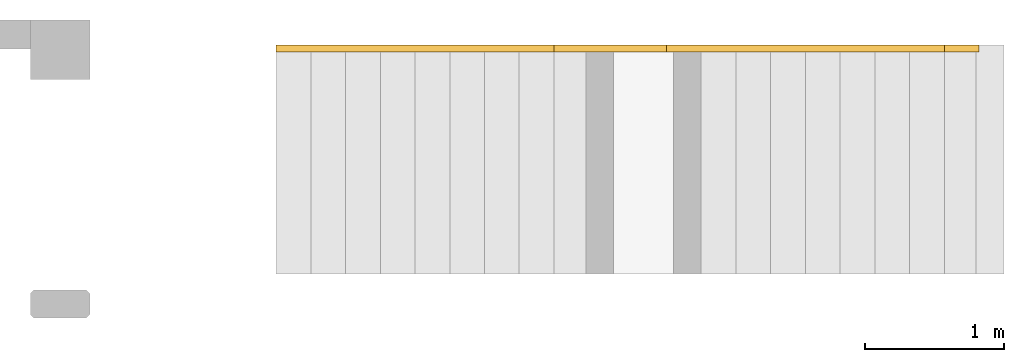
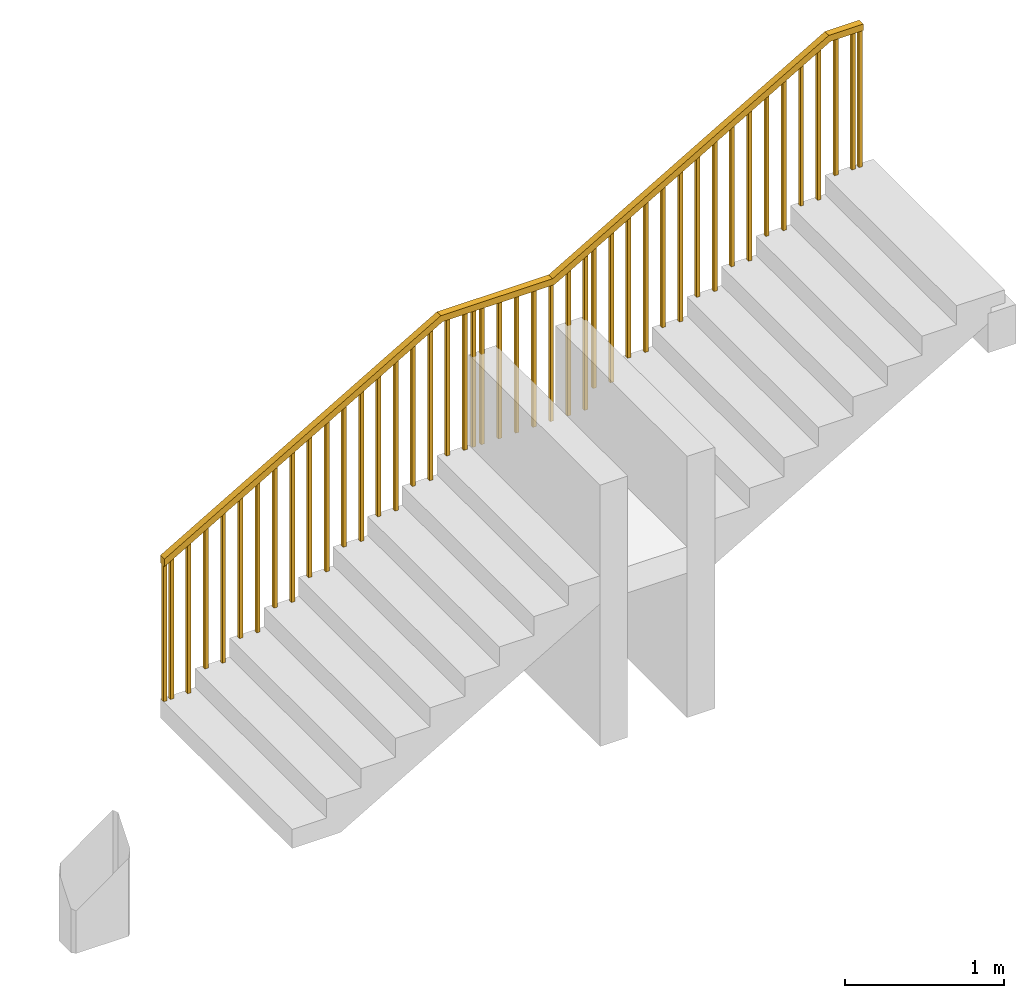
# One storey, part 3 of 3: 1 railing, 1 element without a shape of its own.
"""IFC2X3 building model written with IfcOpenShell, lengths in millimetres."""

import ifcopenshell
import ifcopenshell.guid

model = None  # the IFC model being written
_history = None  # IfcOwnerHistory: only IFC2X3 demands one
_inside = {}  # id of a spatial element -> (the spatial element, [elements in it])
_under = {}  # id of a project, library or spatial element -> (it, [spatial elements below it])
_declared = {}  # id of a project -> (the project, [libraries it declares])
_typed = {}  # id of a type object -> (the type object, [elements of that type])
_made_of = {}  # id of a material, layer set ... -> (it, [elements and type objects made of it])


def new_model(schema):
    """Start an empty IFC model of exactly this schema.

    Asked for "IFC4X3", IfcOpenShell would pick the latest addendum, in which some entities
    have other attributes; the version numbers below select the first issue.
    IFC2X3 requires an IfcOwnerHistory on every rooted entity: one is made here for all.
    """
    global model, _history
    if schema == "IFC4X3":
        model = ifcopenshell.file(schema_version=(4, 3, 0, 0))
    else:
        model = ifcopenshell.file(schema=schema)
    _inside.clear()
    _under.clear()
    _declared.clear()
    _typed.clear()
    _made_of.clear()
    _history = None
    if model.schema == "IFC2X3":
        org = make("IfcOrganization", Name="unknown")
        user = make(
            "IfcPersonAndOrganization",
            ThePerson=make("IfcPerson", FamilyName="unknown"),
            TheOrganization=org,
        )
        app = make(
            "IfcApplication",
            ApplicationDeveloper=org,
            Version="unknown",
            ApplicationFullName="unknown",
            ApplicationIdentifier="unknown",
        )
        _history = make(
            "IfcOwnerHistory",
            OwningUser=user,
            OwningApplication=app,
            ChangeAction="ADDED",
            CreationDate=0,
        )
    return model


def make(cls, **values):
    """One entity of the class cls with the attributes given. An attribute that is None is left unset."""
    return model.create_entity(
        cls, **{name: value for name, value in values.items() if value is not None}
    )


def entity(cls, *values):
    """Any entity or typed value of the class cls, its attributes in the order of the schema. None: left unset."""
    e = model.create_entity(cls)
    for i, value in enumerate(values):
        if value is not None:
            e[i] = value
    return e


def rooted(cls, **values):
    """An entity with a GlobalId (a new one), such as an element, a storey or a relation."""
    return make(cls, GlobalId=ifcopenshell.guid.new(), OwnerHistory=_history, **values)


def si_unit(unit_type, name, prefix=None):
    """IfcSIUnit, for example si_unit("LENGTHUNIT", "METRE", prefix="MILLI")."""
    return make("IfcSIUnit", UnitType=unit_type, Prefix=prefix, Name=name)


def converted_unit(unit_type, name, factor, base, dimensions=None, offset=None):
    """IfcConversionBasedUnit, such as the inch: factor (a typed value) times the base unit."""
    return make(
        "IfcConversionBasedUnit"
        if offset is None
        else "IfcConversionBasedUnitWithOffset",
        ConversionOffset=offset,
        Dimensions=None
        if dimensions is None
        else entity("IfcDimensionalExponents", *dimensions),
        UnitType=unit_type,
        Name=name,
        ConversionFactor=make(
            "IfcMeasureWithUnit", ValueComponent=factor, UnitComponent=base
        ),
    )


def derived_unit(unit_type, elements):
    """IfcDerivedUnit: a product of units, each with its exponent."""
    return make(
        "IfcDerivedUnit",
        Elements=[
            make("IfcDerivedUnitElement", Unit=unit, Exponent=power)
            for unit, power in elements
        ],
        UnitType=unit_type,
    )


def assignment(units):
    """IfcUnitAssignment: the units of a project."""
    return None if units is None else make("IfcUnitAssignment", Units=units)


def point(xyz):
    """IfcCartesianPoint."""
    return None if xyz is None else make("IfcCartesianPoint", Coordinates=xyz)


def direction(xyz):
    """IfcDirection."""
    return None if xyz is None else make("IfcDirection", DirectionRatios=xyz)


def frame(location, z_axis=None, x_axis=None):
    """IfcAxis2Placement3D, a coordinate frame: its origin and axes. An axis left out is left unset."""
    return make(
        "IfcAxis2Placement3D",
        Location=point(location),
        Axis=direction(z_axis),
        RefDirection=direction(x_axis),
    )


def origin():
    """The frame at (0, 0, 0) with its axes left unset."""
    return frame((0.0, 0.0, 0.0))


def place(relative_to, where):
    """IfcLocalPlacement: puts the frame where relative to a parent placement (None: the world)."""
    return make(
        "IfcLocalPlacement", PlacementRelTo=relative_to, RelativePlacement=where
    )


def context(
    kind, dimensions, precision=None, world=None, true_north=None, identifier=None
):
    """IfcGeometricRepresentationContext, for example the 3D "Model" context."""
    return make(
        "IfcGeometricRepresentationContext",
        ContextIdentifier=identifier,
        ContextType=kind,
        CoordinateSpaceDimension=dimensions,
        Precision=precision,
        WorldCoordinateSystem=world,
        TrueNorth=true_north,
    )


def subcontext(parent, identifier, kind, view, scale=None):
    """IfcGeometricRepresentationSubContext, for example "Body" below "Model"."""
    return make(
        "IfcGeometricRepresentationSubContext",
        ContextIdentifier=identifier,
        ContextType=kind,
        ParentContext=parent,
        TargetScale=scale,
        TargetView=view,
    )


def project(units=None, contexts=None):
    """IfcProject with its units and contexts."""
    return rooted(
        "IfcProject",
        Name="project",
        RepresentationContexts=contexts,
        UnitsInContext=assignment(units),
    )


def spatial(cls, under=None, at=None, **own):
    """A site, building, storey or space (cls), placed at a placement, below another one or the project."""
    s = rooted(cls, ObjectPlacement=at, **own)
    if under is not None:
        _under.setdefault(under.id(), (under, []))[1].append(s)
    return s


def faces_of(points, faces, orient=None, outer=None):
    """IfcFace entities. A face is a list of loops; a loop is a list of indices into points, from 0.

    orient and outer hold one flag for each loop. By default every Orientation is true, the
    first loop of a face is its IfcFaceOuterBound and the others are IfcFaceBound.
    """
    made = []
    for i, loops in enumerate(faces):
        bounds = []
        for j, loop in enumerate(loops):
            is_outer = j == 0 if outer is None else outer[i][j]
            bounds.append(
                make(
                    "IfcFaceOuterBound" if is_outer else "IfcFaceBound",
                    Bound=make("IfcPolyLoop", Polygon=[points[k] for k in loop]),
                    Orientation=True if orient is None else orient[i][j],
                )
            )
        made.append(make("IfcFace", Bounds=bounds))
    return made


def faceted_brep(points, faces, orient=None, outer=None, voids=None):
    """IfcFacetedBrep: a solid bounded by flat faces; with voids (closed shells), ...WithVoids."""
    shared = [point(p) for p in points]
    hull = make("IfcClosedShell", CfsFaces=faces_of(shared, faces, orient, outer))
    if voids is None:
        return make("IfcFacetedBrep", Outer=hull)
    return make(
        "IfcFacetedBrepWithVoids",
        Outer=hull,
        Voids=[
            make(cls, CfsFaces=faces_of(shared, fs, o, b)) for cls, fs, o, b in voids
        ],
    )


def shape(context_of_items, identifier, shape_type, items):
    """IfcShapeRepresentation: the items that make up one representation, for example the "Body"."""
    return make(
        "IfcShapeRepresentation",
        ContextOfItems=context_of_items,
        RepresentationIdentifier=identifier,
        RepresentationType=shape_type,
        Items=items,
    )


def made_of(thing, what):
    """Note that an element or type object is made of a material, layer set ...; save() writes the relation."""
    if what is not None:
        _made_of.setdefault(what.id(), (what, []))[1].append(thing)
    return thing


def element(
    cls,
    number,
    at=None,
    inside=None,
    cuts=None,
    type_object=None,
    material=None,
    context=None,
    identifier="Body",
    shape_type=None,
    held_by="IfcProductDefinitionShape",
    body=None,
    shapes=None,
    **own,
):
    """One element of the class cls, such as IfcWall. Its Tag is "e" and its number.

    at: its placement. inside: the storey or other place that contains it. cuts: it is an
    opening in that element (IfcRelVoidsElement). A single representation is given by context,
    identifier, shape_type and body (its items); several are given by shapes. held_by: the class
    of the entity that holds the representations. save() writes the other relations.
    """
    e = rooted(cls, Tag="e%d" % number, ObjectPlacement=at, **own)
    if body is not None:
        shapes = [shape(context, identifier, shape_type, body)]
    if shapes is not None:
        e.Representation = make(held_by, Representations=shapes)
    if inside is not None:
        _inside.setdefault(inside.id(), (inside, []))[1].append(e)
    if cuts is not None:
        rooted(
            "IfcRelVoidsElement", RelatingBuildingElement=cuts, RelatedOpeningElement=e
        )
    if type_object is not None:
        _typed.setdefault(type_object.id(), (type_object, []))[1].append(e)
    return made_of(e, material)


def aggregate(whole, parts):
    """IfcRelAggregates: a whole, such as a stair, and the parts it consists of."""
    return rooted("IfcRelAggregates", RelatingObject=whole, RelatedObjects=parts)


def save(model, path):
    """Write the relations noted so far, then the file.

    IfcRelAggregates (storeys below a building ...), IfcRelContainedInSpatialStructure (elements
    in a storey), IfcRelDefinesByType, IfcRelAssociatesMaterial and IfcRelDeclares: one each for
    every whole, place, type object, material and project.
    """
    for whole, parts in _under.values():
        aggregate(whole, parts)
    for where, things in _inside.values():
        rooted(
            "IfcRelContainedInSpatialStructure",
            RelatedElements=things,
            RelatingStructure=where,
        )
    for kind, things in _typed.values():
        rooted("IfcRelDefinesByType", RelatedObjects=things, RelatingType=kind)
    for what, things in _made_of.values():
        rooted("IfcRelAssociatesMaterial", RelatedObjects=things, RelatingMaterial=what)
    for by, libraries in _declared.values():
        rooted("IfcRelDeclares", RelatingContext=by, RelatedDefinitions=libraries)
    model.write(path)


model = new_model("IFC2X3")

# Units and contexts
model_context = context("Model", 3, precision=0.01, world=origin(), true_north=direction((6.12303176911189e-17, 1.0)))
body_context = subcontext(model_context, "Body", "Model", "MODEL_VIEW")
ifc_project = project(units=[si_unit("LENGTHUNIT", "METRE", prefix="MILLI"), si_unit("AREAUNIT", "SQUARE_METRE"), si_unit("VOLUMEUNIT", "CUBIC_METRE"), converted_unit("PLANEANGLEUNIT", "DEGREE", entity("IfcRatioMeasure", 0.0174532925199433), si_unit("PLANEANGLEUNIT", "RADIAN"), dimensions=[0, 0, 0, 0, 0, 0, 0]), si_unit("MASSUNIT", "GRAM", prefix="KILO"), derived_unit("MASSDENSITYUNIT", [(si_unit("MASSUNIT", "GRAM", prefix="KILO"), 1), (si_unit("LENGTHUNIT", "METRE"), -3)]), derived_unit("MOMENTOFINERTIAUNIT", [(si_unit("LENGTHUNIT", "METRE"), 4)]), si_unit("TIMEUNIT", "SECOND"), si_unit("FREQUENCYUNIT", "HERTZ"), si_unit("THERMODYNAMICTEMPERATUREUNIT", "DEGREE_CELSIUS"), derived_unit("THERMALTRANSMITTANCEUNIT", [(si_unit("MASSUNIT", "GRAM", prefix="KILO"), 1), (si_unit("THERMODYNAMICTEMPERATUREUNIT", "KELVIN"), -1), (si_unit("TIMEUNIT", "SECOND"), -3)]), derived_unit("VOLUMETRICFLOWRATEUNIT", [(si_unit("LENGTHUNIT", "METRE"), 3), (si_unit("TIMEUNIT", "SECOND"), -1)]), si_unit("ELECTRICCURRENTUNIT", "AMPERE"), si_unit("ELECTRICVOLTAGEUNIT", "VOLT"), si_unit("POWERUNIT", "WATT"), si_unit("FORCEUNIT", "NEWTON", prefix="KILO"), si_unit("ILLUMINANCEUNIT", "LUX"), si_unit("LUMINOUSFLUXUNIT", "LUMEN"), si_unit("LUMINOUSINTENSITYUNIT", "CANDELA"), derived_unit("USERDEFINED", [(si_unit("MASSUNIT", "GRAM", prefix="KILO"), -1), (si_unit("LENGTHUNIT", "METRE"), -2), (si_unit("TIMEUNIT", "SECOND"), 3), (si_unit("LUMINOUSFLUXUNIT", "LUMEN"), 1)]), derived_unit("LINEARVELOCITYUNIT", [(si_unit("LENGTHUNIT", "METRE"), 1), (si_unit("TIMEUNIT", "SECOND"), -1)]), si_unit("PRESSUREUNIT", "PASCAL"), derived_unit("USERDEFINED", [(si_unit("LENGTHUNIT", "METRE"), -2), (si_unit("MASSUNIT", "GRAM", prefix="KILO"), 1), (si_unit("TIMEUNIT", "SECOND"), -2)]), derived_unit("LINEARFORCEUNIT", [(si_unit("MASSUNIT", "GRAM", prefix="KILO"), 1), (si_unit("LENGTHUNIT", "METRE"), 1), (si_unit("TIMEUNIT", "SECOND"), -2), (si_unit("LENGTHUNIT", "METRE"), -1)]), derived_unit("PLANARFORCEUNIT", [(si_unit("MASSUNIT", "GRAM", prefix="KILO"), 1), (si_unit("LENGTHUNIT", "METRE"), 1), (si_unit("TIMEUNIT", "SECOND"), -2), (si_unit("LENGTHUNIT", "METRE"), -2)])], contexts=[model_context])

# Site, building, storey
site_placement = place(None, frame((10627.5135316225, 21939.0796949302, 0.0)))
site = spatial("IfcSite", under=ifc_project, at=site_placement, Name="Default", CompositionType="ELEMENT")
building_placement = place(site_placement, origin())
building = spatial("IfcBuilding", under=site, at=building_placement, CompositionType="ELEMENT")
storey_placement = place(building_placement, frame((0.0, 0.0, -3500.0)))
storey = spatial("IfcBuildingStorey", under=building, at=storey_placement, Name="R-1", CompositionType="ELEMENT", Elevation=-3500.0)

# Stair, railing
stair_placement = place(storey_placement, origin())
stair = element("IfcStair", 1, at=stair_placement, inside=storey, Name="Precast Stair:Stair", ObjectType="Precast Stair:Precast_Stair", ShapeType="TWO_STRAIGHT_RUN_STAIR")
railing_placement = place(stair_placement, frame((-7242.51353162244, 18295.5203050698, 145.294117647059)))
railing = element("IfcRailing", 2, at=railing_placement, Name="Railing:1100mm", ObjectType="Railing:1100mm", PredefinedType="NOTDEFINED", context=body_context, shape_type="Brep", body=[
    faceted_brep([(4985.0, 12.500000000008, 3374.70588235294), (4985.0, 37.5000000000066, 3374.70588235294), (4985.0, 37.5000000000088, 2324.70588235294), (4985.0, 12.500000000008, 2324.70588235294), (5010.0, 37.5000000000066, 3374.70588235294), (5010.0, 37.5000000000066, 2324.70588235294), (5010.0, 12.500000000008, 3374.70588235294), (5010.0, 12.5000000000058, 2324.70588235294)], [[[0, 1, 2, 3]], [[1, 4, 5, 2]], [[4, 6, 7, 5]], [[3, 7, 6, 0]], [[0, 6, 4, 1]], [[2, 5, 7, 3]]]),
    faceted_brep([(4860.0, 12.500000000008, 3374.70588235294), (4860.0, 37.5000000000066, 3374.70588235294), (4860.0, 37.5000000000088, 2324.70588235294), (4860.0, 12.500000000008, 2324.70588235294), (4885.0, 37.5000000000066, 3374.70588235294), (4885.0, 37.5000000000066, 2324.70588235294), (4885.0, 12.500000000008, 3374.70588235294), (4885.0, 12.5000000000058, 2324.70588235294)], [[[0, 1, 2, 3]], [[1, 4, 5, 2]], [[4, 6, 7, 5]], [[3, 7, 6, 0]], [[0, 6, 4, 1]], [[2, 5, 7, 3]]]),
    faceted_brep([(4735.0, 12.500000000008, 3323.28672777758), (4735.0, 37.5000000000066, 3323.28672777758), (4735.0, 37.5000000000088, 2179.41176470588), (4735.0, 12.500000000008, 2179.41176470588), (4760.0, 37.5000000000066, 3337.81613954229), (4760.0, 37.5000000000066, 2179.41176470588), (4760.0, 12.500000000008, 3337.81613954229), (4760.0, 12.5000000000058, 2179.41176470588)], [[[0, 1, 2, 3]], [[1, 4, 5, 2]], [[4, 6, 7, 5]], [[3, 7, 6, 0]], [[0, 6, 4, 1]], [[2, 5, 7, 3]]]),
    faceted_brep([(4610.0, 12.5000000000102, 3250.63966895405), (4610.0, 37.5000000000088, 3250.63966895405), (4610.0, 37.500000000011, 2179.41176470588), (4610.0, 12.5000000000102, 2179.41176470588), (4635.0, 37.5000000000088, 3265.16908071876), (4635.0, 37.5000000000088, 2179.41176470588), (4635.0, 12.5000000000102, 3265.16908071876), (4635.0, 12.500000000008, 2179.41176470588)], [[[0, 1, 2, 3]], [[1, 4, 5, 2]], [[4, 6, 7, 5]], [[3, 7, 6, 0]], [[0, 6, 4, 1]], [[2, 5, 7, 3]]]),
    faceted_brep([(4485.0, 12.5000000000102, 3177.99261013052), (4485.0, 37.5000000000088, 3177.99261013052), (4485.0, 37.500000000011, 2034.11764705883), (4485.0, 12.5000000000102, 2034.11764705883), (4510.0, 37.5000000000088, 3192.52202189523), (4510.0, 37.5000000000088, 2034.11764705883), (4510.0, 12.5000000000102, 3192.52202189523), (4510.0, 12.500000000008, 2034.11764705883)], [[[0, 1, 2, 3]], [[1, 4, 5, 2]], [[4, 6, 7, 5]], [[3, 7, 6, 0]], [[0, 6, 4, 1]], [[2, 5, 7, 3]]]),
    faceted_brep([(4360.0, 12.5000000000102, 3105.34555130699), (4360.0, 37.5000000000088, 3105.34555130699), (4360.0, 37.500000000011, 2034.11764705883), (4360.0, 12.5000000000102, 2034.11764705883), (4385.0, 37.5000000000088, 3119.8749630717), (4385.0, 37.5000000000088, 2034.11764705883), (4385.0, 12.5000000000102, 3119.8749630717), (4385.0, 12.500000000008, 2034.11764705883)], [[[0, 1, 2, 3]], [[1, 4, 5, 2]], [[4, 6, 7, 5]], [[3, 7, 6, 0]], [[0, 6, 4, 1]], [[2, 5, 7, 3]]]),
    faceted_brep([(4235.0, 12.5000000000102, 3032.69849248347), (4235.0, 37.5000000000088, 3032.69849248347), (4235.0, 37.500000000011, 1888.82352941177), (4235.0, 12.5000000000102, 1888.82352941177), (4260.0, 37.5000000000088, 3047.22790424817), (4260.0, 37.5000000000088, 1888.82352941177), (4260.0, 12.5000000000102, 3047.22790424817), (4260.0, 12.500000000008, 1888.82352941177)], [[[0, 1, 2, 3]], [[1, 4, 5, 2]], [[4, 6, 7, 5]], [[3, 7, 6, 0]], [[0, 6, 4, 1]], [[2, 5, 7, 3]]]),
    faceted_brep([(4110.0, 12.5000000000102, 2960.05143365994), (4110.0, 37.5000000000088, 2960.05143365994), (4110.0, 37.500000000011, 1888.82352941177), (4110.0, 12.5000000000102, 1888.82352941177), (4135.0, 37.5000000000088, 2974.58084542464), (4135.0, 37.5000000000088, 1888.82352941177), (4135.0, 12.5000000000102, 2974.58084542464), (4135.0, 12.500000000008, 1888.82352941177)], [[[0, 1, 2, 3]], [[1, 4, 5, 2]], [[4, 6, 7, 5]], [[3, 7, 6, 0]], [[0, 6, 4, 1]], [[2, 5, 7, 3]]]),
    faceted_brep([(3985.0, 12.5000000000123, 2887.40437483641), (3985.0, 37.500000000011, 2887.40437483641), (3985.0, 37.5000000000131, 1743.52941176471), (3985.0, 12.5000000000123, 1743.52941176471), (4010.0, 37.500000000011, 2901.93378660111), (4010.0, 37.500000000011, 1743.52941176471), (4010.0, 12.5000000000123, 2901.93378660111), (4010.0, 12.5000000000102, 1743.52941176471)], [[[0, 1, 2, 3]], [[1, 4, 5, 2]], [[4, 6, 7, 5]], [[3, 7, 6, 0]], [[0, 6, 4, 1]], [[2, 5, 7, 3]]]),
    faceted_brep([(3860.0, 12.5000000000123, 2814.75731601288), (3860.0, 37.500000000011, 2814.75731601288), (3860.0, 37.5000000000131, 1743.52941176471), (3860.0, 12.5000000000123, 1743.52941176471), (3885.0, 37.500000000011, 2829.28672777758), (3885.0, 37.500000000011, 1743.52941176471), (3885.0, 12.5000000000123, 2829.28672777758), (3885.0, 12.5000000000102, 1743.52941176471)], [[[0, 1, 2, 3]], [[1, 4, 5, 2]], [[4, 6, 7, 5]], [[3, 7, 6, 0]], [[0, 6, 4, 1]], [[2, 5, 7, 3]]]),
    faceted_brep([(3735.0, 12.5000000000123, 2742.11025718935), (3735.0, 37.500000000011, 2742.11025718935), (3735.0, 37.5000000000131, 1598.23529411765), (3735.0, 12.5000000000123, 1598.23529411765), (3760.0, 37.500000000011, 2756.63966895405), (3760.0, 37.500000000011, 1598.23529411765), (3760.0, 12.5000000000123, 2756.63966895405), (3760.0, 12.5000000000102, 1598.23529411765)], [[[0, 1, 2, 3]], [[1, 4, 5, 2]], [[4, 6, 7, 5]], [[3, 7, 6, 0]], [[0, 6, 4, 1]], [[2, 5, 7, 3]]]),
    faceted_brep([(3610.0, 12.5000000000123, 2669.46319836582), (3610.0, 37.500000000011, 2669.46319836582), (3610.0, 37.5000000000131, 1598.23529411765), (3610.0, 12.5000000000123, 1598.23529411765), (3635.0, 37.500000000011, 2683.99261013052), (3635.0, 37.500000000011, 1598.23529411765), (3635.0, 12.5000000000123, 2683.99261013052), (3635.0, 12.5000000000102, 1598.23529411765)], [[[0, 1, 2, 3]], [[1, 4, 5, 2]], [[4, 6, 7, 5]], [[3, 7, 6, 0]], [[0, 6, 4, 1]], [[2, 5, 7, 3]]]),
    faceted_brep([(3485.0, 12.5000000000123, 2596.81613954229), (3485.0, 37.500000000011, 2596.81613954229), (3485.0, 37.5000000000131, 1452.94117647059), (3485.0, 12.5000000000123, 1452.94117647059), (3510.0, 37.500000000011, 2611.34555130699), (3510.0, 37.500000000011, 1452.94117647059), (3510.0, 12.5000000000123, 2611.34555130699), (3510.0, 12.5000000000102, 1452.94117647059)], [[[0, 1, 2, 3]], [[1, 4, 5, 2]], [[4, 6, 7, 5]], [[3, 7, 6, 0]], [[0, 6, 4, 1]], [[2, 5, 7, 3]]]),
    faceted_brep([(3360.0, 12.5000000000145, 2524.16908071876), (3360.0, 37.5000000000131, 2524.16908071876), (3360.0, 37.5000000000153, 1452.94117647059), (3360.0, 12.5000000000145, 1452.94117647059), (3385.0, 37.5000000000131, 2538.69849248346), (3385.0, 37.5000000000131, 1452.94117647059), (3385.0, 12.5000000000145, 2538.69849248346), (3385.0, 12.5000000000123, 1452.94117647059)], [[[0, 1, 2, 3]], [[1, 4, 5, 2]], [[4, 6, 7, 5]], [[3, 7, 6, 0]], [[0, 6, 4, 1]], [[2, 5, 7, 3]]]),
    faceted_brep([(3235.0, 12.5000000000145, 2451.52202189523), (3235.0, 37.5000000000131, 2451.52202189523), (3235.0, 37.5000000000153, 1307.64705882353), (3235.0, 12.5000000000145, 1307.64705882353), (3260.0, 37.5000000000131, 2466.05143365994), (3260.0, 37.5000000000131, 1307.64705882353), (3260.0, 12.5000000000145, 2466.05143365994), (3260.0, 12.5000000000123, 1307.64705882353)], [[[0, 1, 2, 3]], [[1, 4, 5, 2]], [[4, 6, 7, 5]], [[3, 7, 6, 0]], [[0, 6, 4, 1]], [[2, 5, 7, 3]]]),
    faceted_brep([(3110.0, 12.5000000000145, 2378.8749630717), (3110.0, 37.5000000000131, 2378.8749630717), (3110.0, 37.5000000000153, 1307.64705882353), (3110.0, 12.5000000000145, 1307.64705882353), (3135.0, 37.5000000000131, 2393.40437483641), (3135.0, 37.5000000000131, 1307.64705882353), (3135.0, 12.5000000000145, 2393.40437483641), (3135.0, 12.5000000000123, 1307.64705882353)], [[[0, 1, 2, 3]], [[1, 4, 5, 2]], [[4, 6, 7, 5]], [[3, 7, 6, 0]], [[0, 6, 4, 1]], [[2, 5, 7, 3]]]),
    faceted_brep([(2925.0, 12.5000000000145, 2271.35731601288), (2925.0, 37.5000000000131, 2271.35731601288), (2925.0, 37.5000000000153, 1162.35294117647), (2925.0, 12.5000000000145, 1162.35294117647), (2950.0, 37.5000000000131, 2285.88672777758), (2950.0, 37.5000000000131, 1162.35294117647), (2950.0, 12.5000000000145, 2285.88672777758), (2950.0, 12.5000000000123, 1162.35294117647)], [[[0, 1, 2, 3]], [[1, 4, 5, 2]], [[4, 6, 7, 5]], [[3, 7, 6, 0]], [[0, 6, 4, 1]], [[2, 5, 7, 3]]]),
    faceted_brep([(2800.0, 12.5000000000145, 2198.71025718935), (2800.0, 37.5000000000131, 2198.71025718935), (2800.0, 37.5000000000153, 1162.35294117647), (2800.0, 12.5000000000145, 1162.35294117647), (2825.0, 37.5000000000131, 2213.23966895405), (2825.0, 37.5000000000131, 1162.35294117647), (2825.0, 12.5000000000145, 2213.23966895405), (2825.0, 12.5000000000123, 1162.35294117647)], [[[0, 1, 2, 3]], [[1, 4, 5, 2]], [[4, 6, 7, 5]], [[3, 7, 6, 0]], [[0, 6, 4, 1]], [[2, 5, 7, 3]]]),
    faceted_brep([(2675.0, 12.5000000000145, 2212.35294117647), (2675.0, 37.5000000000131, 2212.35294117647), (2675.0, 37.5000000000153, 1162.35294117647), (2675.0, 12.5000000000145, 1162.35294117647), (2700.0, 37.5000000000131, 2212.35294117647), (2700.0, 37.5000000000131, 1162.35294117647), (2700.0, 12.5000000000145, 2212.35294117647), (2700.0, 12.5000000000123, 1162.35294117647)], [[[0, 1, 2, 3]], [[1, 4, 5, 2]], [[4, 6, 7, 5]], [[3, 7, 6, 0]], [[0, 6, 4, 1]], [[2, 5, 7, 3]]]),
    faceted_brep([(2550.0, 12.5000000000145, 2212.35294117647), (2550.0, 37.5000000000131, 2212.35294117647), (2550.0, 37.5000000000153, 1162.35294117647), (2550.0, 12.5000000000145, 1162.35294117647), (2575.0, 37.5000000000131, 2212.35294117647), (2575.0, 37.5000000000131, 1162.35294117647), (2575.0, 12.5000000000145, 2212.35294117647), (2575.0, 12.5000000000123, 1162.35294117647)], [[[0, 1, 2, 3]], [[1, 4, 5, 2]], [[4, 6, 7, 5]], [[3, 7, 6, 0]], [[0, 6, 4, 1]], [[2, 5, 7, 3]]]),
    faceted_brep([(2425.0, 12.5000000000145, 2212.35294117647), (2425.0, 37.5000000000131, 2212.35294117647), (2425.0, 37.5000000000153, 1162.35294117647), (2425.0, 12.5000000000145, 1162.35294117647), (2450.0, 37.5000000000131, 2212.35294117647), (2450.0, 37.5000000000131, 1162.35294117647), (2450.0, 12.5000000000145, 2212.35294117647), (2450.0, 12.5000000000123, 1162.35294117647)], [[[0, 1, 2, 3]], [[1, 4, 5, 2]], [[4, 6, 7, 5]], [[3, 7, 6, 0]], [[0, 6, 4, 1]], [[2, 5, 7, 3]]]),
    faceted_brep([(2300.0, 12.5000000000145, 2212.35294117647), (2300.0, 37.5000000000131, 2212.35294117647), (2300.0, 37.5000000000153, 1162.35294117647), (2300.0, 12.5000000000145, 1162.35294117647), (2325.0, 37.5000000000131, 2212.35294117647), (2325.0, 37.5000000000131, 1162.35294117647), (2325.0, 12.5000000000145, 2212.35294117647), (2325.0, 12.5000000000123, 1162.35294117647)], [[[0, 1, 2, 3]], [[1, 4, 5, 2]], [[4, 6, 7, 5]], [[3, 7, 6, 0]], [[0, 6, 4, 1]], [[2, 5, 7, 3]]]),
    faceted_brep([(2175.0, 12.5000000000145, 2212.35294117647), (2175.0, 37.5000000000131, 2212.35294117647), (2175.0, 37.5000000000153, 1162.35294117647), (2175.0, 12.5000000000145, 1162.35294117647), (2200.0, 37.5000000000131, 2212.35294117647), (2200.0, 37.5000000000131, 1162.35294117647), (2200.0, 12.5000000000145, 2212.35294117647), (2200.0, 12.5000000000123, 1162.35294117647)], [[[0, 1, 2, 3]], [[1, 4, 5, 2]], [[4, 6, 7, 5]], [[3, 7, 6, 0]], [[0, 6, 4, 1]], [[2, 5, 7, 3]]]),
    faceted_brep([(2050.0, 12.5000000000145, 2212.35294117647), (2050.0, 37.5000000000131, 2212.35294117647), (2050.0, 37.5000000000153, 1162.35294117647), (2050.0, 12.5000000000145, 1162.35294117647), (2075.0, 37.5000000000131, 2212.35294117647), (2075.0, 37.5000000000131, 1162.35294117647), (2075.0, 12.5000000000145, 2212.35294117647), (2075.0, 12.5000000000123, 1162.35294117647)], [[[0, 1, 2, 3]], [[1, 4, 5, 2]], [[4, 6, 7, 5]], [[3, 7, 6, 0]], [[0, 6, 4, 1]], [[2, 5, 7, 3]]]),
    faceted_brep([(1925.0, 12.5000000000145, 2160.93378660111), (1925.0, 37.5000000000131, 2160.93378660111), (1925.0, 37.5000000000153, 1017.05882352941), (1925.0, 12.5000000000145, 1017.05882352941), (1950.0, 37.5000000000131, 2175.46319836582), (1950.0, 37.5000000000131, 1017.05882352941), (1950.0, 12.5000000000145, 2175.46319836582), (1950.0, 12.5000000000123, 1017.05882352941)], [[[0, 1, 2, 3]], [[1, 4, 5, 2]], [[4, 6, 7, 5]], [[3, 7, 6, 0]], [[0, 6, 4, 1]], [[2, 5, 7, 3]]]),
    faceted_brep([(1800.0, 12.5000000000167, 2088.28672777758), (1800.0, 37.5000000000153, 2088.28672777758), (1800.0, 37.5000000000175, 1017.05882352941), (1800.0, 12.5000000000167, 1017.05882352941), (1825.0, 37.5000000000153, 2102.81613954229), (1825.0, 37.5000000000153, 1017.05882352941), (1825.0, 12.5000000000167, 2102.81613954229), (1825.0, 12.5000000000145, 1017.05882352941)], [[[0, 1, 2, 3]], [[1, 4, 5, 2]], [[4, 6, 7, 5]], [[3, 7, 6, 0]], [[0, 6, 4, 1]], [[2, 5, 7, 3]]]),
    faceted_brep([(1675.0, 12.5000000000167, 2015.63966895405), (1675.0, 37.5000000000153, 2015.63966895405), (1675.0, 37.5000000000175, 871.764705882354), (1675.0, 12.5000000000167, 871.764705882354), (1700.0, 37.5000000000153, 2030.16908071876), (1700.0, 37.5000000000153, 871.764705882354), (1700.0, 12.5000000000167, 2030.16908071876), (1700.0, 12.5000000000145, 871.764705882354)], [[[0, 1, 2, 3]], [[1, 4, 5, 2]], [[4, 6, 7, 5]], [[3, 7, 6, 0]], [[0, 6, 4, 1]], [[2, 5, 7, 3]]]),
    faceted_brep([(1550.0, 12.5000000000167, 1942.99261013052), (1550.0, 37.5000000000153, 1942.99261013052), (1550.0, 37.5000000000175, 871.764705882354), (1550.0, 12.5000000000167, 871.764705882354), (1575.0, 37.5000000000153, 1957.52202189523), (1575.0, 37.5000000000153, 871.764705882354), (1575.0, 12.5000000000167, 1957.52202189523), (1575.0, 12.5000000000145, 871.764705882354)], [[[0, 1, 2, 3]], [[1, 4, 5, 2]], [[4, 6, 7, 5]], [[3, 7, 6, 0]], [[0, 6, 4, 1]], [[2, 5, 7, 3]]]),
    faceted_brep([(1425.0, 12.5000000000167, 1870.34555130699), (1425.0, 37.5000000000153, 1870.34555130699), (1425.0, 37.5000000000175, 726.470588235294), (1425.0, 12.5000000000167, 726.470588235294), (1450.0, 37.5000000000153, 1884.8749630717), (1450.0, 37.5000000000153, 726.470588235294), (1450.0, 12.5000000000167, 1884.8749630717), (1450.0, 12.5000000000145, 726.470588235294)], [[[0, 1, 2, 3]], [[1, 4, 5, 2]], [[4, 6, 7, 5]], [[3, 7, 6, 0]], [[0, 6, 4, 1]], [[2, 5, 7, 3]]]),
    faceted_brep([(1300.0, 12.5000000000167, 1797.69849248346), (1300.0, 37.5000000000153, 1797.69849248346), (1300.0, 37.5000000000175, 726.470588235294), (1300.0, 12.5000000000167, 726.470588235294), (1325.0, 37.5000000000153, 1812.22790424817), (1325.0, 37.5000000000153, 726.470588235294), (1325.0, 12.5000000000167, 1812.22790424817), (1325.0, 12.5000000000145, 726.470588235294)], [[[0, 1, 2, 3]], [[1, 4, 5, 2]], [[4, 6, 7, 5]], [[3, 7, 6, 0]], [[0, 6, 4, 1]], [[2, 5, 7, 3]]]),
    faceted_brep([(1175.0, 12.5000000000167, 1725.05143365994), (1175.0, 37.5000000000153, 1725.05143365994), (1175.0, 37.5000000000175, 581.176470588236), (1175.0, 12.5000000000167, 581.176470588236), (1200.0, 37.5000000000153, 1739.58084542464), (1200.0, 37.5000000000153, 581.176470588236), (1200.0, 12.5000000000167, 1739.58084542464), (1200.0, 12.5000000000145, 581.176470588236)], [[[0, 1, 2, 3]], [[1, 4, 5, 2]], [[4, 6, 7, 5]], [[3, 7, 6, 0]], [[0, 6, 4, 1]], [[2, 5, 7, 3]]]),
    faceted_brep([(1050.0, 12.5000000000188, 1652.4043748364), (1050.0, 37.5000000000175, 1652.4043748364), (1050.0, 37.5000000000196, 581.176470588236), (1050.0, 12.5000000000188, 581.176470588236), (1075.0, 37.5000000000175, 1666.93378660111), (1075.0, 37.5000000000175, 581.176470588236), (1075.0, 12.5000000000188, 1666.93378660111), (1075.0, 12.5000000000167, 581.176470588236)], [[[0, 1, 2, 3]], [[1, 4, 5, 2]], [[4, 6, 7, 5]], [[3, 7, 6, 0]], [[0, 6, 4, 1]], [[2, 5, 7, 3]]]),
    faceted_brep([(925.0, 12.5000000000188, 1579.75731601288), (925.0, 37.5000000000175, 1579.75731601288), (925.0, 37.5000000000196, 435.882352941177), (925.0, 12.5000000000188, 435.882352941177), (950.0, 37.5000000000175, 1594.28672777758), (950.0, 37.5000000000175, 435.882352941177), (950.0, 12.5000000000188, 1594.28672777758), (950.0, 12.5000000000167, 435.882352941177)], [[[0, 1, 2, 3]], [[1, 4, 5, 2]], [[4, 6, 7, 5]], [[3, 7, 6, 0]], [[0, 6, 4, 1]], [[2, 5, 7, 3]]]),
    faceted_brep([(800.0, 12.5000000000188, 1507.11025718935), (800.0, 37.5000000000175, 1507.11025718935), (800.0, 37.5000000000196, 435.882352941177), (800.0, 12.5000000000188, 435.882352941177), (825.0, 37.5000000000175, 1521.63966895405), (825.0, 37.5000000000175, 435.882352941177), (825.0, 12.5000000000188, 1521.63966895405), (825.0, 12.5000000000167, 435.882352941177)], [[[0, 1, 2, 3]], [[1, 4, 5, 2]], [[4, 6, 7, 5]], [[3, 7, 6, 0]], [[0, 6, 4, 1]], [[2, 5, 7, 3]]]),
    faceted_brep([(675.0, 12.5000000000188, 1434.46319836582), (675.0, 37.5000000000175, 1434.46319836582), (675.0, 37.5000000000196, 290.588235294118), (675.0, 12.5000000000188, 290.588235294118), (700.0, 37.5000000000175, 1448.99261013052), (700.0, 37.5000000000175, 290.588235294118), (700.0, 12.5000000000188, 1448.99261013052), (700.0, 12.5000000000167, 290.588235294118)], [[[0, 1, 2, 3]], [[1, 4, 5, 2]], [[4, 6, 7, 5]], [[3, 7, 6, 0]], [[0, 6, 4, 1]], [[2, 5, 7, 3]]]),
    faceted_brep([(550.0, 12.5000000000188, 1361.81613954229), (550.0, 37.5000000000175, 1361.81613954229), (550.0, 37.5000000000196, 290.588235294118), (550.0, 12.5000000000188, 290.588235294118), (575.0, 37.5000000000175, 1376.34555130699), (575.0, 37.5000000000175, 290.588235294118), (575.0, 12.5000000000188, 1376.34555130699), (575.0, 12.5000000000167, 290.588235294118)], [[[0, 1, 2, 3]], [[1, 4, 5, 2]], [[4, 6, 7, 5]], [[3, 7, 6, 0]], [[0, 6, 4, 1]], [[2, 5, 7, 3]]]),
    faceted_brep([(425.0, 12.5000000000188, 1289.16908071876), (425.0, 37.5000000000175, 1289.16908071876), (425.0, 37.5000000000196, 145.294117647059), (425.0, 12.5000000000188, 145.294117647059), (450.0, 37.5000000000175, 1303.69849248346), (450.0, 37.5000000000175, 145.294117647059), (450.0, 12.5000000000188, 1303.69849248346), (450.0, 12.5000000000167, 145.294117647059)], [[[0, 1, 2, 3]], [[1, 4, 5, 2]], [[4, 6, 7, 5]], [[3, 7, 6, 0]], [[0, 6, 4, 1]], [[2, 5, 7, 3]]]),
    faceted_brep([(300.0, 12.500000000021, 1216.52202189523), (300.0, 37.5000000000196, 1216.52202189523), (300.0, 37.5000000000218, 145.294117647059), (300.0, 12.500000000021, 145.294117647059), (325.0, 37.5000000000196, 1231.05143365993), (325.0, 37.5000000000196, 145.294117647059), (325.0, 12.500000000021, 1231.05143365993), (325.0, 12.5000000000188, 145.294117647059)], [[[0, 1, 2, 3]], [[1, 4, 5, 2]], [[4, 6, 7, 5]], [[3, 7, 6, 0]], [[0, 6, 4, 1]], [[2, 5, 7, 3]]]),
    faceted_brep([(175.0, 12.500000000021, 1143.8749630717), (175.0, 37.5000000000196, 1143.8749630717), (175.0, 37.5000000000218, 0.0), (175.0, 12.500000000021, 0.0), (200.0, 37.5000000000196, 1158.40437483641), (200.0, 37.5000000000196, 0.0), (200.0, 12.500000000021, 1158.40437483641), (200.0, 12.5000000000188, 0.0)], [[[0, 1, 2, 3]], [[1, 4, 5, 2]], [[4, 6, 7, 5]], [[3, 7, 6, 0]], [[0, 6, 4, 1]], [[2, 5, 7, 3]]]),
    faceted_brep([(50.0, 12.500000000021, 1071.22790424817), (50.0, 37.5000000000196, 1071.22790424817), (50.0, 37.5000000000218, 0.0), (50.0, 12.500000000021, 0.0), (75.0, 37.5000000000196, 1085.75731601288), (75.0, 37.5000000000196, 0.0), (75.0, 12.500000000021, 1085.75731601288), (75.0, 12.5000000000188, 0.0)], [[[0, 1, 2, 3]], [[1, 4, 5, 2]], [[4, 6, 7, 5]], [[3, 7, 6, 0]], [[0, 6, 4, 1]], [[2, 5, 7, 3]]]),
    faceted_brep([(3047.49999999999, 12.5000000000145, 2342.55143365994), (3047.49999999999, 37.5000000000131, 2342.55143365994), (3047.49999999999, 37.5000000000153, 1162.35294117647), (3047.49999999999, 12.5000000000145, 1162.35294117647), (3072.49999999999, 37.5000000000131, 2357.08084542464), (3072.49999999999, 37.5000000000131, 1162.35294117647), (3072.49999999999, 12.5000000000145, 2357.08084542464), (3072.49999999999, 12.5000000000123, 1162.35294117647)], [[[0, 1, 2, 3]], [[1, 4, 5, 2]], [[4, 6, 7, 5]], [[3, 7, 6, 0]], [[0, 6, 4, 1]], [[2, 5, 7, 3]]]),
    faceted_brep([(2237.49999999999, 12.5000000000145, 2212.35294117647), (2237.49999999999, 37.5000000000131, 2212.35294117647), (2237.49999999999, 37.5000000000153, 1162.35294117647), (2237.49999999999, 12.5000000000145, 1162.35294117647), (2262.49999999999, 37.5000000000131, 2212.35294117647), (2262.49999999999, 37.5000000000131, 1162.35294117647), (2262.49999999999, 12.5000000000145, 2212.35294117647), (2262.49999999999, 12.5000000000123, 1162.35294117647)], [[[0, 1, 2, 3]], [[1, 4, 5, 2]], [[4, 6, 7, 5]], [[3, 7, 6, 0]], [[0, 6, 4, 1]], [[2, 5, 7, 3]]]),
    faceted_brep([(5035.0, 12.500000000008, 3374.70588235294), (5035.0, 37.5000000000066, 3374.70588235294), (5035.0, 37.5000000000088, 2324.70588235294), (5035.0, 12.500000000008, 2324.70588235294), (5060.0, 37.5000000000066, 3374.70588235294), (5060.0, 37.5000000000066, 2324.70588235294), (5060.0, 12.500000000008, 3374.70588235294), (5060.0, 12.5000000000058, 2324.70588235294)], [[[0, 1, 2, 3]], [[1, 4, 5, 2]], [[4, 6, 7, 5]], [[3, 7, 6, 0]], [[0, 6, 4, 1]], [[2, 5, 7, 3]]]),
    faceted_brep([(0.0, 12.500000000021, 1042.16908071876), (0.0, 37.5000000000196, 1042.16908071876), (0.0, 37.5000000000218, 0.0), (0.0, 12.500000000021, 0.0), (25.0, 37.5000000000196, 1056.69849248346), (25.0, 37.5000000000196, 0.0), (25.0, 12.500000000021, 1056.69849248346), (25.0, 12.5000000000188, 0.0)], [[[0, 1, 2, 3]], [[1, 4, 5, 2]], [[4, 6, 7, 5]], [[3, 7, 6, 0]], [[0, 6, 4, 1]], [[2, 5, 7, 3]]]),
    faceted_brep([(0.0, 50.0, 1100.0), (0.0, 50.0, 1042.16908071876), (0.0, 0.0, 1042.16908071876), (0.0, 0.0, 1100.0), (2000.0, 50.0, 2262.35294117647), (2013.474253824, 50.0, 2212.35294117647), (2013.474253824, 0.0, 2212.35294117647), (2000.0, 0.0, 2262.35294117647), (2250.0, 50.0, 2262.35294117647), (2250.0, 50.0, 2212.35294117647), (2250.0, 0.0, 2212.35294117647), (2250.0, 0.0, 2262.35294117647), (2810.0, 50.0, 2262.35294117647), (2823.47425382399, 50.0, 2212.35294117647), (2823.47425382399, 0.0, 2212.35294117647), (2810.0, 0.0, 2262.35294117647), (3085.12395089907, 50.0, 2364.41758865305), (3060.0, 50.0, 2407.64705882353), (4810.0, 50.0, 3424.70588235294), (4823.47425382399, 50.0, 3374.70588235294), (3085.12395089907, 0.0, 2364.41758865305), (4823.47425382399, 0.0, 3374.70588235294), (3060.0, 0.0, 2407.64705882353), (4810.0, 0.0, 3424.70588235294), (5060.0, 50.0, 3424.70588235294), (5060.0, 0.0, 3424.70588235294), (5060.0, 0.0, 3374.70588235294), (5060.0, 50.0, 3374.70588235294)], [[[0, 1, 2, 3]], [[1, 0, 4, 5]], [[2, 1, 5, 6]], [[3, 2, 6, 7]], [[0, 3, 7, 4]], [[5, 4, 8, 9]], [[6, 5, 9, 10]], [[7, 6, 10, 11]], [[4, 7, 11, 8]], [[9, 8, 12, 13]], [[10, 9, 13, 14]], [[11, 10, 14, 15]], [[8, 11, 15, 12]], [[16, 17, 18, 19]], [[20, 16, 19, 21]], [[22, 20, 21, 23]], [[17, 22, 23, 18]], [[24, 25, 26, 27]], [[19, 18, 24, 27]], [[21, 19, 27, 26]], [[23, 21, 26, 25]], [[18, 23, 25, 24]], [[13, 12, 17, 16]], [[14, 13, 16, 20]], [[15, 14, 20, 22]], [[12, 15, 22, 17]]]),
])
aggregate(stair, [railing])

save(model, "model.ifc")
